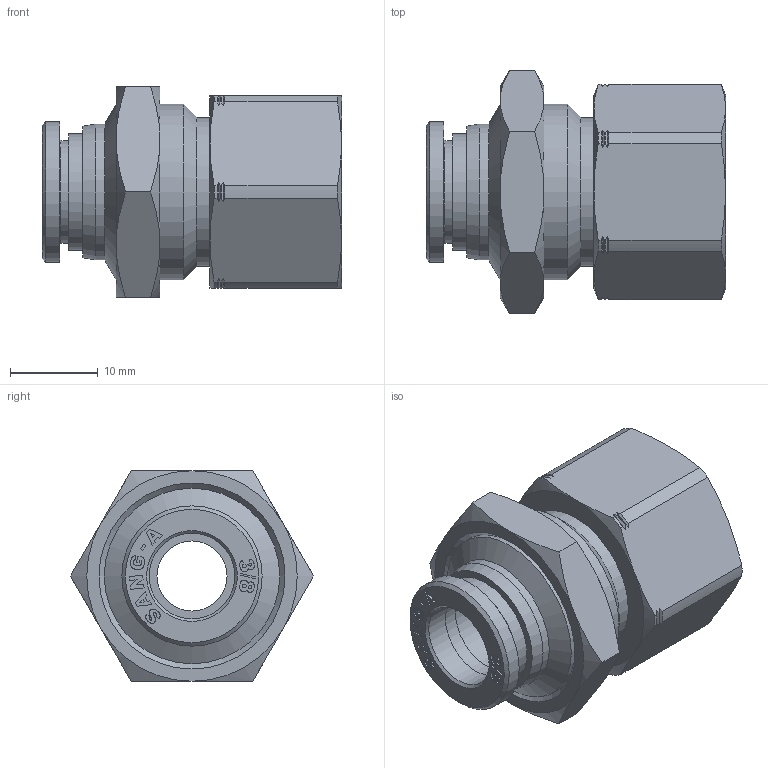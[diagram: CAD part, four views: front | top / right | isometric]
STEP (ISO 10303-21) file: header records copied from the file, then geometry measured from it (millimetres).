
FILE_DESCRIPTION((''),'2;1');
FILE_NAME('C:\Users\user0117\Desktop\김진일\G-FITTING INCH\3-8\PDF\G-FITTING INCH (STEP)\GPMF 3_8-R03.stp','2020-04-20T11:15:37',('user0117'),(''),'Autodesk Inventor 2013','Autodesk Inventor 2013','');
FILE_SCHEMA(('AUTOMOTIVE_DESIGN { 1 0 10303 214 1 1 1 1 }'));
Length unit declared in the file: millimetre
Products named in the file (6): GPMF 3_8-R03; GPMF BODY 3_8-R03(BRASS); G-COLLAR 3-8C(ROUND); COLLAR G3-8C; SLEEVE G3-8R; NMM NUT 10
Assembly tree (5 placements, depth 3):
  GPMF 3_8-R03
    GPMF BODY 3_8-R03(BRASS)
    G-COLLAR 3-8C(ROUND)
      COLLAR G3-8C
      SLEEVE G3-8R
    NMM NUT 10
Bounding box: 34.1 x 27.71 x 24 mm (x, y, z)
Volume: 8078.6 mm3; surface area: 5513.2 mm2
Topology: 4 solids, 4 shells, 416 faces, 1142 edges, 751 vertices
Faces by surface type: plane 290, cone 58, bspline 35, cylinder 33
Full cylindrical faces by diameter (mm): 8 x1, 9.75 x3, 11.7 x1, 13.3 x1, 15.5 x1, 16 x1, 17 x1, 20 x2
Entity records: 13337 total; most frequent: CARTESIAN_POINT 3108, ORIENTED_EDGE 2234, DIRECTION 1846, EDGE_CURVE 1117, VECTOR 840, LINE 840, VERTEX_POINT 747, AXIS2_PLACEMENT_3D 503
